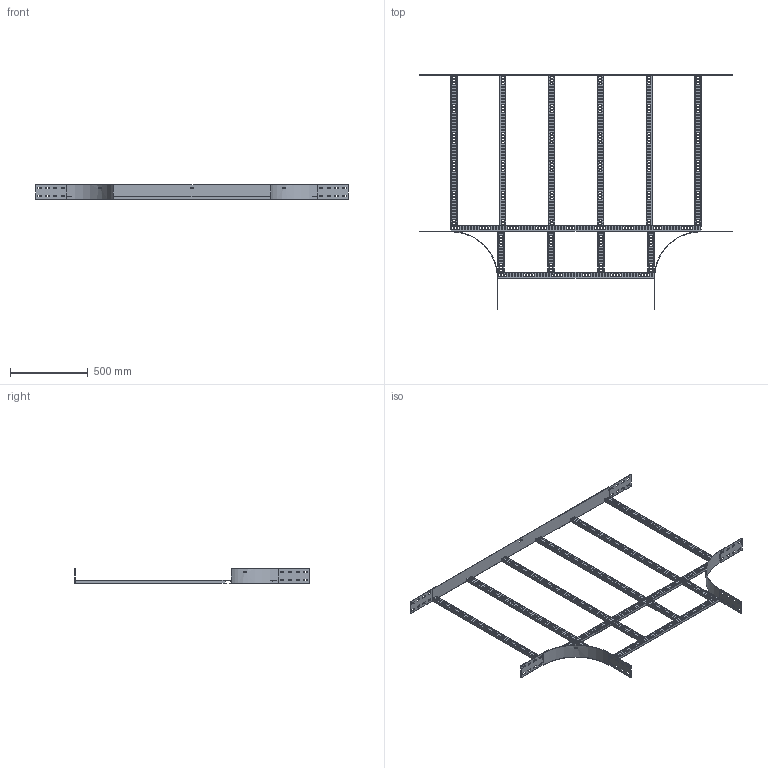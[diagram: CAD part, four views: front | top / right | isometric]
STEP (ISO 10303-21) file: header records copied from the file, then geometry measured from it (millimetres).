
FILE_DESCRIPTION(/* description */ ('','CAx-IF Rec.Pracs.---Representation and Presentation of Product Manufacturing Information (PMI)---4.0---2014-10-13'),/* implementation_level */ '2;1');
FILE_NAME(/* name */ 'Eurostrut_EET100-1000-300_T-Piece for Cable Ladder ECL.step',/* time_stamp */ '2026-09-03T15:53:22+02:00',/* author */ (''),/* organization */ (''),/* preprocessor_version */ 'ST-DEVELOPER v20.1',/* originating_system */ 'Autodesk Revit 2027 27.2.0.39',/* authorisation */ '');
FILE_SCHEMA (('AP242_MANAGED_MODEL_BASED_3D_ENGINEERING_MIM_LF { 1 0 10303 442 2 1 4 }'));
Products named in the file (9): TopLevelAssembly; Sweep; Sweep_1; Eurostrut_Cable Ladder_Rung_With slots; Eurostrut_Cable Ladder_Rung_With slots_1; Eurostrut_Cable Ladder_Rung Array Straight_Slotted; Eurostrut_Cable Ladder_Rung Array Straight_Slotted_1; Sweep_2; Eurostrut_Cable Ladder_Accessory End_54-94-142
Assembly tree (13 placements, depth 2):
  TopLevelAssembly
    Sweep
    Sweep_1
    Eurostrut_Cable Ladder_Rung_With slots
    Eurostrut_Cable Ladder_Rung_With slots_1
    Eurostrut_Cable Ladder_Rung Array Straight_Slotted
    Eurostrut_Cable Ladder_Rung Array Straight_Slotted_1
    Sweep_2
    Eurostrut_Cable Ladder_Accessory End_54-94-142  x6
Bounding box: 2011 x 1511 x 94.04 mm (x, y, z)
Volume: 2181921.1 mm3; surface area: 2335254.2 mm2
Topology: 21 solids, 21 shells, 2358 faces, 6948 edges, 4632 vertices
Faces by surface type: plane 1364, bspline 942, cylinder 52
Entity records: 101262 total; most frequent: CARTESIAN_POINT 42008, ORIENTED_EDGE 12816, DIRECTION 10900, EDGE_CURVE 6408, LINE 4412, VECTOR 4412, VERTEX_POINT 4272, AXIS2_PLACEMENT_3D 3244
